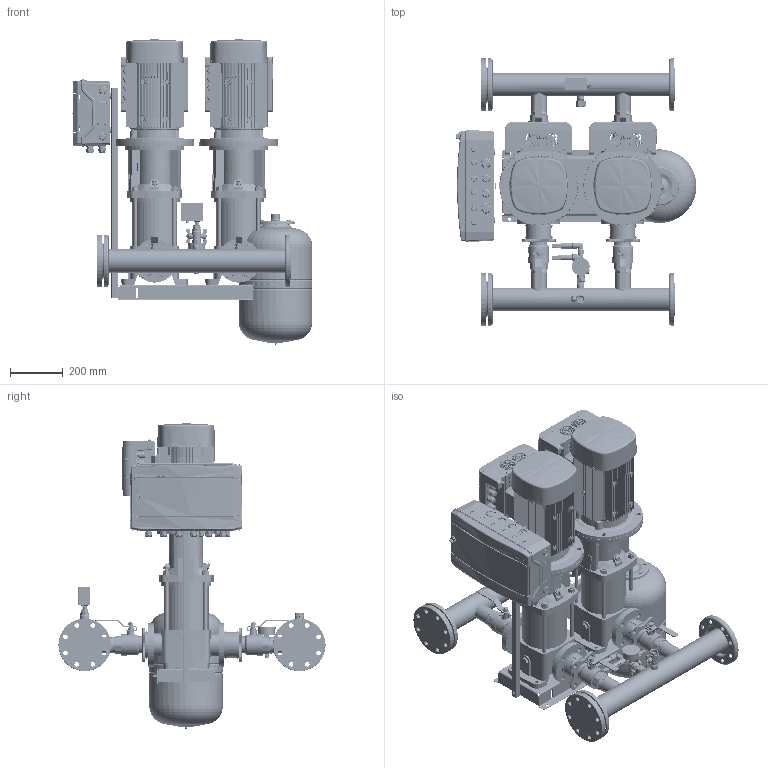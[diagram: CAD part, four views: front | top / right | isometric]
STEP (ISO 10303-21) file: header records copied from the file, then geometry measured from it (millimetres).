
FILE_DESCRIPTION(('CATIA V5 STEP Exchange','CAx-IF Rec.Pracs.--- Model Styling and Organization---1.4--- 2014-01-23','CAx-IF Rec.Pracs.---3D Tessellated Data Validation Properties---0.5---2014-09-14'),'2;1');
FILE_NAME('C:\Users\78432\YandexDisk\Drawings and 3D\3D Hydro Booster\Hydro-ME 3D\Hydro Models\Hydro ME 2 CRV15_20-xx (DIN BV)\Hydro ME 2 CRVE20-4 (DIN BV).stp','2023-09-20T12:36:59+00:00',('none'),('none'),'CATIA Version 5-6 Release 2019 SP6','CATIA V5 STEP AP242 v1','none');
FILE_SCHEMA(('AP242_MANAGED_MODEL_BASED_3D_ENGINEERING_MIM_LF {1 0 10303 442 1 1 4}'));
Products named in the file (44): Hydro ME 2 CRVE20-4 (DIN BV); 92051008; CRV20-4 set (DIN bv); CRV 20-4_A_DIN_5.5kW; Base; Sleeve; Pumphead; Staybolt.1; Staybolt.2; Staybolt.3; Staybolt.4; Plug; AirVent; Motor; 00id2584; 92802785; 99273085; SAJ PDH30 4-7,5kW; 97941445; 405801; 91040270; 91070073; 99110037; 97941482; 00GW4890; Holder and CP 18mod; 92878909; Control ME (18mod); 2 sensors + manometer cpl.; manometr 16 bar; RPD-I-G1_2; 9021-01; 2070 1/2-1/2; _2020 1/2-1/2; 98594078; Tank 24L cpl.; DN20_FF_BF_47.300.20; WAV-24(D140 1''); 9021-03; Relay cpl.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
Assembly tree (54 placements, depth 4):
  Hydro ME 2 CRVE20-4 (DIN BV)
    92051008
    CRV20-4 set (DIN bv)  x2
      CRV 20-4_A_DIN_5.5kW
        Base
        Sleeve
        Pumphead
        Staybolt.1
        Staybolt.2
        Staybolt.3
        Staybolt.4
        Plug
        AirVent
        Motor
      00id2584
      92802785
      99273085
      SAJ PDH30 4-7,5kW
    97941445  x2
      405801
      91040270
      91070073
      99110037
      97941482
    00GW4890  x2
    Holder and CP 18mod
      92878909
      Control ME (18mod)
    2 sensors + manometer cpl.
      manometr 16 bar
      RPD-I-G1_2  x2
      9021-01
      2070 1/2-1/2
      _2020 1/2-1/2
      98594078
    Tank 24L cpl.
      DN20_FF_BF_47.300.20
      9021-03
    Relay cpl.
      Relay RD-2R
      DN20_FF_BF_47.300.20
      2530 3/4-1/2
      _2530 1/2-1/4
    91078139
  WAV-24(D140 1'')
Bounding box: 916.82 x 1016.5 x 1161.77 mm (x, y, z)
Volume: 93458775.3 mm3; surface area: 9173650.2 mm2
Topology: 232 solids, 260 shells, 24099 faces, 79030 edges, 56194 vertices
Faces by surface type: plane 10008, cylinder 6441, bspline 5360, cone 1647, torus 478, sphere 165
Entity records: 686615 total; most frequent: CARTESIAN_POINT 355801, ORIENTED_EDGE 86419, EDGE_CURVE 43750, DIRECTION 38086, VERTEX_POINT 30079, B_SPLINE_CURVE_WITH_KNOTS 18536, VECTOR 17937, LINE 17937
